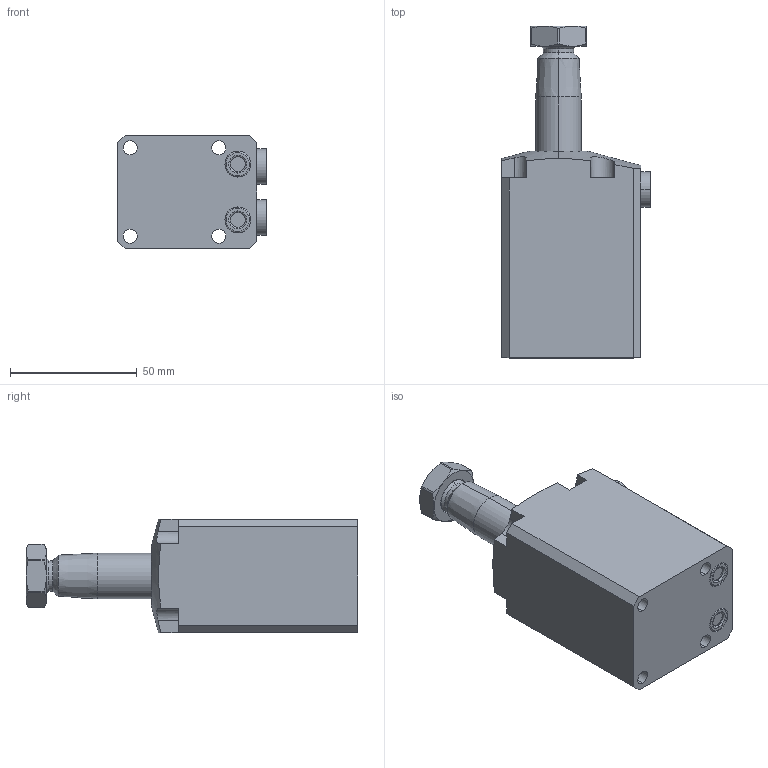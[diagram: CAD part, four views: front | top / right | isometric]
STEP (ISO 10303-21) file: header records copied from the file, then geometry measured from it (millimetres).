
FILE_DESCRIPTION(/* description */ (''),/* implementation_level */ '2;1');
FILE_NAME(/* name */ 'BRC02-R.stp',/* time_stamp */ '2025-01-05T09:27:37+08:00',/* author */ (''),/* organization */ (''),/* preprocessor_version */ 'ST-DEVELOPER v16.7',/* originating_system */ 'SIEMENS PLM Software NX 12.0',/* authorisation */ '');
FILE_SCHEMA (('AUTOMOTIVE_DESIGN { 1 0 10303 214 3 1 1 1 }'));
Length unit declared in the file: millimetre
Products named in the file (5): BRC02-R-0385; BRC02-R-0486; BRC02-R-0287; BRC02-R-0188; BRC02-R_stp
Assembly tree (5 placements, depth 2):
  BRC02-R_stp
    BRC02-R-0188
    BRC02-R-0287
    BRC02-R-0486  x2
    BRC02-R-0385
Bounding box: 58.8 x 131 x 45 mm (x, y, z)
Volume: 194529 mm3; surface area: 33129.4 mm2
Topology: 7 solids, 7 shells, 176 faces, 401 edges, 248 vertices
Faces by surface type: plane 68, cylinder 57, cone 34, torus 16, sphere 1
Full cylindrical faces by diameter (mm): 8.5 x2
Entity records: 4664 total; most frequent: CARTESIAN_POINT 961, DIRECTION 778, ORIENTED_EDGE 712, EDGE_CURVE 356, AXIS2_PLACEMENT_3D 313, VERTEX_POINT 222, EDGE_LOOP 180, ADVANCED_FACE 156
